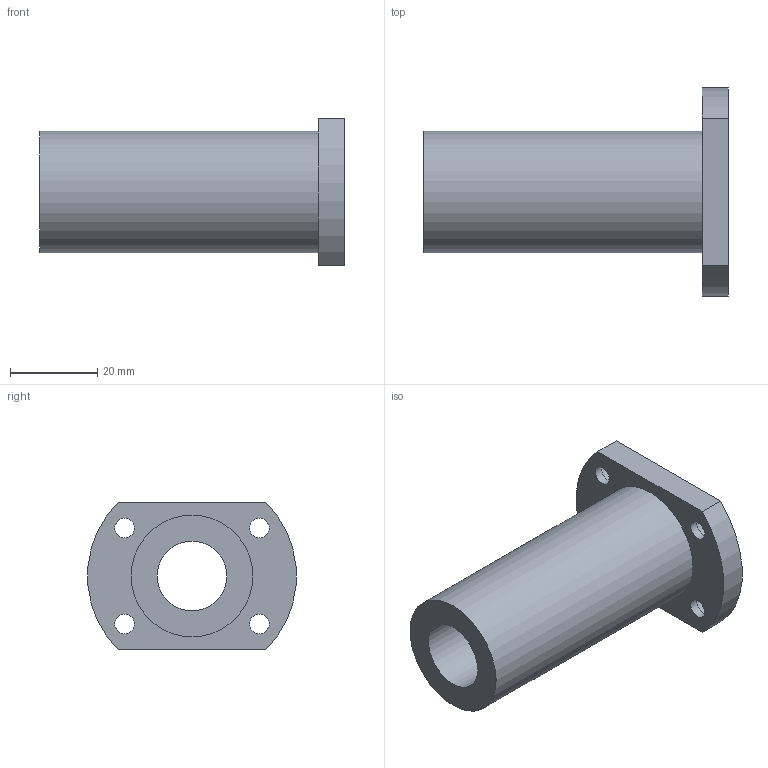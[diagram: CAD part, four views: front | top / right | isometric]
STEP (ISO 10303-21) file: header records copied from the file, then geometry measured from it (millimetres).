
FILE_DESCRIPTION(/* description */ ('Unknown'),/* implementation_level */ '2;1');
FILE_NAME(/* name */ 'LMH16LUU',/* time_stamp */ '2025-02-04T10:29:56+08:00',/* author */ ('Unknown'),/* organization */ ('Unknown'),/* preprocessor_version */ 'ST-DEVELOPER v18.102',/* originating_system */ 'Solid Edge',/* authorisation */ 'Unknown');
FILE_SCHEMA (('AUTOMOTIVE_DESIGN {1 0 10303 214 3 1 1}'));
Length unit declared in the file: millimetre
Products named in the file (1): LMH16LUU
Bounding box: 70 x 47.82 x 34 mm (x, y, z)
Volume: 33385.1 mm3; surface area: 12938.3 mm2
Topology: 1 solids, 1 shells, 21 faces, 42 edges, 28 vertices
Faces by surface type: cylinder 12, plane 9
Full cylindrical faces by diameter (mm): 4.5 x4, 7.5 x4, 16 x1, 28 x1
Entity records: 560 total; most frequent: DIRECTION 100, CARTESIAN_POINT 82, ORIENTED_EDGE 64, EDGE_LOOP 46, FACE_BOUND 46, AXIS2_PLACEMENT_3D 46, EDGE_CURVE 32, VERTEX_POINT 28
